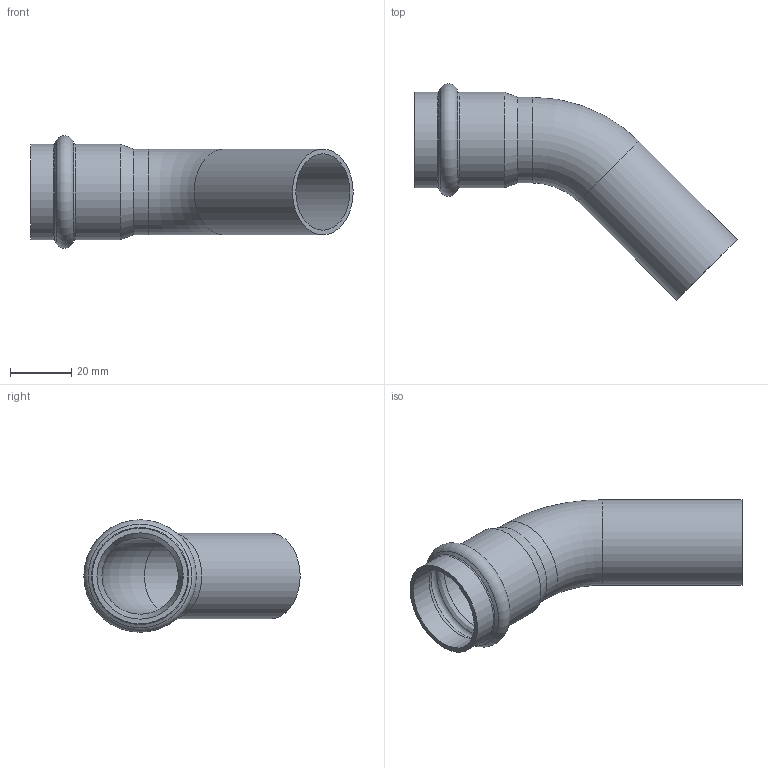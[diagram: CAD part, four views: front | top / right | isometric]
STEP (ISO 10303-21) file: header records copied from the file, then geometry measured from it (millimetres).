
FILE_DESCRIPTION((''),'2;1');
FILE_NAME('G:\Nirosan-Schmiedefeld\Technics\CAD\Bauteile VA\028\6904028(2).stp','2014-01-09T11:21:15',('herberg'),(''),'Autodesk Inventor 2009','Autodesk Inventor 2009','');
FILE_SCHEMA(('AUTOMOTIVE_DESIGN { 1 0 10303 214 1 1 1 1 }'));
Length unit declared in the file: millimetre
Products named in the file (1): 6904028(2)
Bounding box: 105.32 x 70.72 x 36.79 mm (x, y, z)
Volume: 14935.3 mm3; surface area: 20178 mm2
Topology: 1 solids, 1 shells, 22 faces, 48 edges, 28 vertices
Faces by surface type: cylinder 8, cone 4, torus 4, bspline 4, plane 2
Full cylindrical faces by diameter (mm): 25 x2, 28 x2, 28.2 x2, 31.2 x2
Entity records: 634 total; most frequent: CARTESIAN_POINT 243, DIRECTION 82, ORIENTED_EDGE 44, EDGE_LOOP 44, AXIS2_PLACEMENT_3D 41, VERTEX_POINT 22, CIRCLE 22, EDGE_CURVE 22
